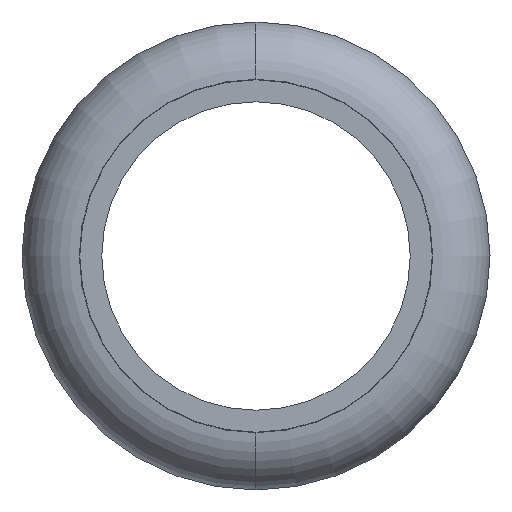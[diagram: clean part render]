
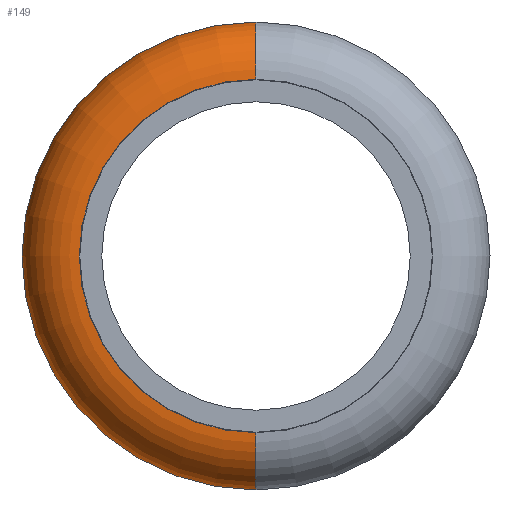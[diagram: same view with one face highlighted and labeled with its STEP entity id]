
A CAD part, left-side view. The second image highlights one B-rep face of the part: STEP entity #149.
In plain terms, the highlighted toroidal (fillet/blend) face has major radius 9.25 mm and minor radius 3 mm.
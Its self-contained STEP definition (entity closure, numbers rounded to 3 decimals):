
#149=ADVANCED_FACE('',(#334),#335,.T.);
#334=FACE_OUTER_BOUND('',#570,.T.);
#335=TOROIDAL_SURFACE('',#571,9.25,3.);
#570=EDGE_LOOP('',(#935,#936,#937,#938));
#571=AXIS2_PLACEMENT_3D('',#939,#940,#941);
#935=ORIENTED_EDGE('',*,*,#1329,.T.);
#936=ORIENTED_EDGE('',*,*,#1395,.F.);
#937=ORIENTED_EDGE('',*,*,#1396,.F.);
#938=ORIENTED_EDGE('',*,*,#1397,.F.);
#939=CARTESIAN_POINT('',(8.,0.0,0.));
#940=DIRECTION('',(-1.0,0.0,0.));
#941=DIRECTION('',(0.,0.0,1.0));
#1329=EDGE_CURVE('',#1528,#1527,#1572,.T.);
#1395=EDGE_CURVE('',#1674,#1527,#1675,.T.);
#1396=EDGE_CURVE('',#1676,#1674,#1677,.T.);
#1397=EDGE_CURVE('',#1528,#1676,#1678,.T.);
#1527=VERTEX_POINT('',#1826);
#1528=VERTEX_POINT('',#1827);
#1572=CIRCLE('',#1871,12.25);
#1674=VERTEX_POINT('',#1987);
#1675=CIRCLE('',#1988,3.);
#1676=VERTEX_POINT('',#1989);
#1677=CIRCLE('',#1990,9.25);
#1678=CIRCLE('',#1991,3.);
#1826=CARTESIAN_POINT('',(8.,0.,-12.25));
#1827=CARTESIAN_POINT('',(8.,0.,12.25));
#1871=AXIS2_PLACEMENT_3D('',#2222,#2223,#2224);
#1987=CARTESIAN_POINT('',(5.,0.,-9.25));
#1988=AXIS2_PLACEMENT_3D('',#2344,#2345,#2346);
#1989=CARTESIAN_POINT('',(5.,0.,9.25));
#1990=AXIS2_PLACEMENT_3D('',#2347,#2348,#2349);
#1991=AXIS2_PLACEMENT_3D('',#2350,#2351,#2352);
#2222=CARTESIAN_POINT('',(8.,0.0,0.));
#2223=DIRECTION('',(-1.0,0.0,0.));
#2224=DIRECTION('',(0.,0.0,1.0));
#2344=CARTESIAN_POINT('',(8.,0.,-9.25));
#2345=DIRECTION('',(0.,-1.0,0.));
#2346=DIRECTION('',(0.,0.,-1.0));
#2347=CARTESIAN_POINT('',(5.,0.0,0.));
#2348=DIRECTION('',(-1.0,0.0,0.));
#2349=DIRECTION('',(0.,0.0,-1.0));
#2350=CARTESIAN_POINT('',(8.,0.,9.25));
#2351=DIRECTION('',(0.,-1.0,0.));
#2352=DIRECTION('',(0.,0.,1.0));
